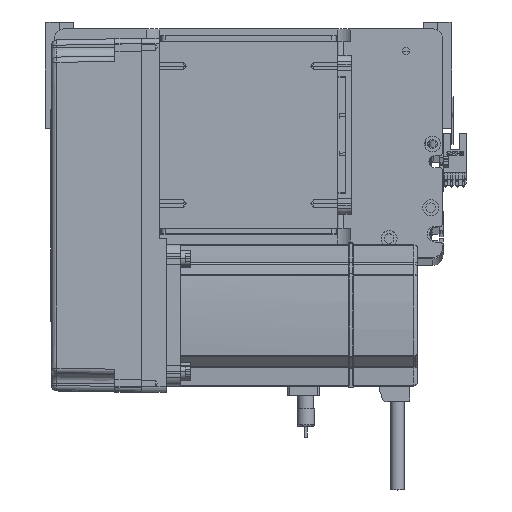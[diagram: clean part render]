
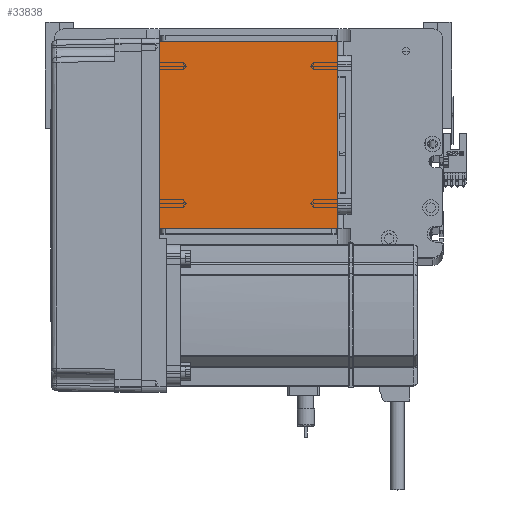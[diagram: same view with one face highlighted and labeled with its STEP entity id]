
A CAD part, top view. The second image highlights one B-rep face of the part: STEP entity #33838.
In plain terms, the highlighted planar face has unit normal (0, 0, 1).
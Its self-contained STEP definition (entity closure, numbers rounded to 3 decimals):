
#323 = CARTESIAN_POINT ( 'NONE',  ( 50.5, 122., 115. ) ) ;
#3431 = CARTESIAN_POINT ( 'NONE',  ( -50.5, 16., 115. ) ) ;
#7547 = ORIENTED_EDGE ( 'NONE', *, *, #13829, .T. ) ;
#7815 = DIRECTION ( 'NONE',  ( 0., -1., 0. ) ) ;
#9390 = DIRECTION ( 'NONE',  ( 1., 0., 0. ) ) ;
#9950 = DIRECTION ( 'NONE',  ( 0., 0., 1. ) ) ;
#11668 = CARTESIAN_POINT ( 'NONE',  ( -50.5, 16., 115. ) ) ;
#11888 = ORIENTED_EDGE ( 'NONE', *, *, #54096, .T. ) ;
#11993 = EDGE_CURVE ( 'NONE', #53600, #25949, #38721, .T. ) ;
#13711 = CARTESIAN_POINT ( 'NONE',  ( 0., 0., 115. ) ) ;
#13829 = EDGE_CURVE ( 'NONE', #25949, #31735, #41188, .T. ) ;
#15374 = CARTESIAN_POINT ( 'NONE',  ( -50.5, 122., 115. ) ) ;
#18071 = EDGE_CURVE ( 'NONE', #45829, #53600, #49028, .T. ) ;
#18397 = VECTOR ( 'NONE', #7815, 1000. ) ;
#20455 = CARTESIAN_POINT ( 'NONE',  ( 50.5, 122., 115. ) ) ;
#21171 = AXIS2_PLACEMENT_3D ( 'NONE', #13711, #9950, #9390 ) ;
#21569 = EDGE_LOOP ( 'NONE', ( #7547, #11888, #41617, #41231 ) ) ;
#25949 = VERTEX_POINT ( 'NONE', #15374 ) ;
#26500 = CARTESIAN_POINT ( 'NONE',  ( 50.5, 16., 115. ) ) ;
#29779 = VECTOR ( 'NONE', #50268, 1000. ) ;
#31735 = VERTEX_POINT ( 'NONE', #3431 ) ;
#33571 = DIRECTION ( 'NONE',  ( 0., 1., 0. ) ) ;
#33681 = CARTESIAN_POINT ( 'NONE',  ( -50.5, 122., 115. ) ) ;
#33838 = ADVANCED_FACE ( 'NONE', ( #44559 ), #47998, .T. ) ;
#37659 = VECTOR ( 'NONE', #33571, 1000. ) ;
#38721 = LINE ( 'NONE', #41365, #41400 ) ;
#41188 = LINE ( 'NONE', #33681, #18397 ) ;
#41220 = LINE ( 'NONE', #11668, #29779 ) ;
#41231 = ORIENTED_EDGE ( 'NONE', *, *, #11993, .T. ) ;
#41365 = CARTESIAN_POINT ( 'NONE',  ( -50.5, 122., 115. ) ) ;
#41400 = VECTOR ( 'NONE', #41729, 1000. ) ;
#41617 = ORIENTED_EDGE ( 'NONE', *, *, #18071, .T. ) ;
#41729 = DIRECTION ( 'NONE',  ( -1., 0., 0. ) ) ;
#44559 = FACE_OUTER_BOUND ( 'NONE', #21569, .T. ) ;
#45829 = VERTEX_POINT ( 'NONE', #26500 ) ;
#47998 = PLANE ( 'NONE',  #21171 ) ;
#49028 = LINE ( 'NONE', #20455, #37659 ) ;
#50268 = DIRECTION ( 'NONE',  ( 1., 0., 0. ) ) ;
#53600 = VERTEX_POINT ( 'NONE', #323 ) ;
#54096 = EDGE_CURVE ( 'NONE', #31735, #45829, #41220, .T. ) ;
